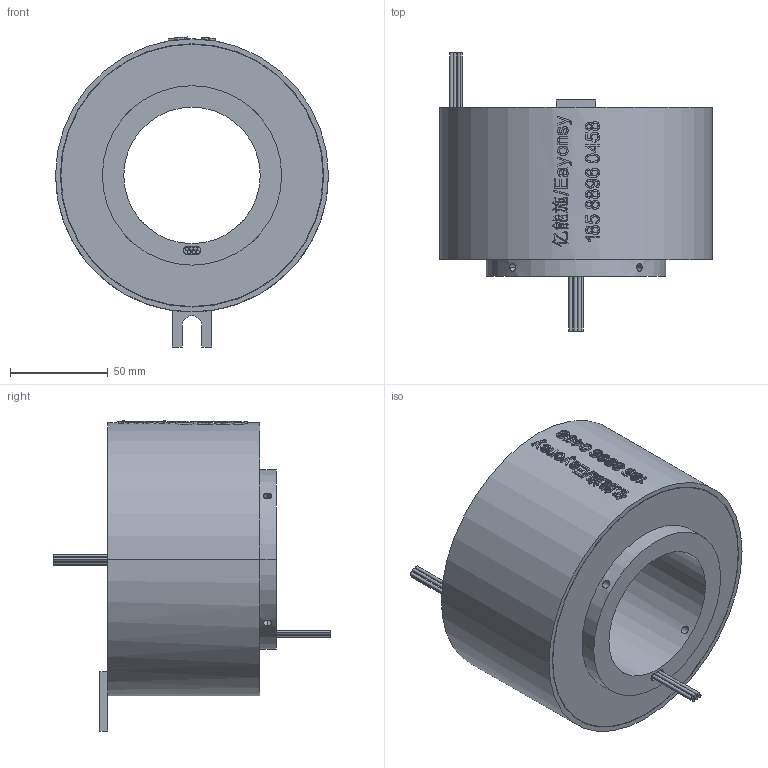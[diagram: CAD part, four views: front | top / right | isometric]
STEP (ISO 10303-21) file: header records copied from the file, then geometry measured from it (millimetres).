
FILE_DESCRIPTION(/* description */ (''),/* implementation_level */ '2;1');
FILE_NAME(/* name */ 'HDF70140-0610.stp',/* time_stamp */ '2025-01-19T14:18:25+08:00',/* author */ (''),/* organization */ (''),/* preprocessor_version */ 'ST-DEVELOPER v16.7',/* originating_system */ 'SIEMENS PLM Software NX 12.0',/* authorisation */ '');
FILE_SCHEMA (('AUTOMOTIVE_DESIGN { 1 0 10303 214 3 1 1 1 }'));
Length unit declared in the file: millimetre
Products named in the file (1): HX05089CE4B9bd6c
Bounding box: 140 x 142.5 x 158.97 mm (x, y, z)
Volume: 926070.9 mm3; surface area: 86790 mm2
Topology: 1 solids, 1 shells, 424 faces, 1076 edges, 719 vertices
Faces by surface type: plane 223, extrusion 93, cylinder 75, bspline 29, torus 4
Entity records: 30558 total; most frequent: CARTESIAN_POINT 21399, ORIENTED_EDGE 2104, DIRECTION 1395, EDGE_CURVE 1052, VERTEX_POINT 707, B_SPLINE_CURVE_WITH_KNOTS 695, AXIS2_PLACEMENT_3D 549, EDGE_LOOP 513
